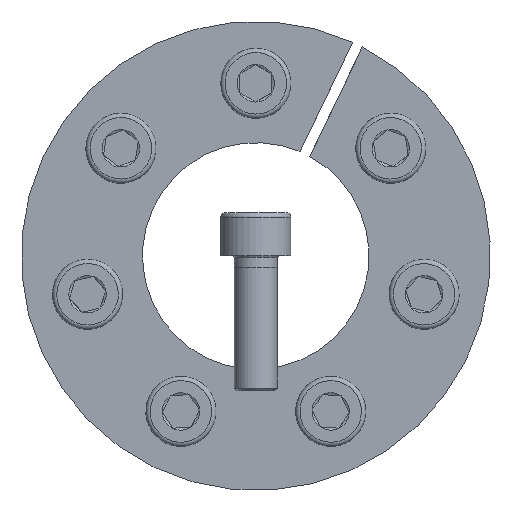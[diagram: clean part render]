
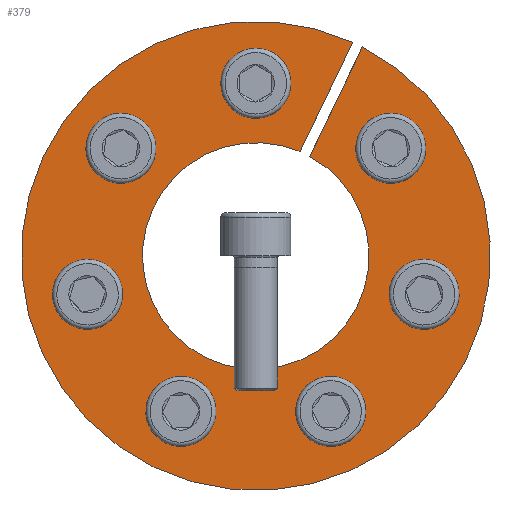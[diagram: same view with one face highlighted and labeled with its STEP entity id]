
A CAD part, front view. The second image highlights one B-rep face of the part: STEP entity #379.
In plain terms, the highlighted planar face has unit normal (0, -1, 0).
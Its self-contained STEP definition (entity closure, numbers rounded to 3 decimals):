
#379 = ADVANCED_FACE( '', ( #600, #601, #602, #603, #604, #605, #606, #607 ), #608, .F. );
#600 = FACE_OUTER_BOUND( '', #754, .T. );
#601 = FACE_BOUND( '', #755, .T. );
#602 = FACE_BOUND( '', #756, .T. );
#603 = FACE_BOUND( '', #757, .T. );
#604 = FACE_BOUND( '', #758, .T. );
#605 = FACE_BOUND( '', #759, .T. );
#606 = FACE_BOUND( '', #760, .T. );
#607 = FACE_BOUND( '', #761, .T. );
#608 = PLANE( '', #762 );
#754 = EDGE_LOOP( '', ( #985, #986, #987, #988 ) );
#755 = EDGE_LOOP( '', ( #989 ) );
#756 = EDGE_LOOP( '', ( #990 ) );
#757 = EDGE_LOOP( '', ( #991 ) );
#758 = EDGE_LOOP( '', ( #992 ) );
#759 = EDGE_LOOP( '', ( #993 ) );
#760 = EDGE_LOOP( '', ( #994 ) );
#761 = EDGE_LOOP( '', ( #995 ) );
#762 = AXIS2_PLACEMENT_3D( '', #996, #997, #998 );
#985 = ORIENTED_EDGE( '', *, *, #1257, .T. );
#986 = ORIENTED_EDGE( '', *, *, #1232, .T. );
#987 = ORIENTED_EDGE( '', *, *, #1246, .T. );
#988 = ORIENTED_EDGE( '', *, *, #1270, .F. );
#989 = ORIENTED_EDGE( '', *, *, #1272, .F. );
#990 = ORIENTED_EDGE( '', *, *, #1273, .F. );
#991 = ORIENTED_EDGE( '', *, *, #1274, .F. );
#992 = ORIENTED_EDGE( '', *, *, #1275, .F. );
#993 = ORIENTED_EDGE( '', *, *, #1276, .F. );
#994 = ORIENTED_EDGE( '', *, *, #1277, .F. );
#995 = ORIENTED_EDGE( '', *, *, #1278, .F. );
#996 = CARTESIAN_POINT( '', ( 0., 0., 43.5 ) );
#997 = DIRECTION( '', ( 0., 1., 0. ) );
#998 = DIRECTION( '', ( 1., 0., 0. ) );
#1232 = EDGE_CURVE( '', #1351, #1355, #1357, .T. );
#1246 = EDGE_CURVE( '', #1355, #1381, #1383, .T. );
#1257 = EDGE_CURVE( '', #1402, #1351, #1403, .T. );
#1270 = EDGE_CURVE( '', #1402, #1381, #1426, .T. );
#1272 = EDGE_CURVE( '', #1428, #1428, #1429, .T. );
#1273 = EDGE_CURVE( '', #1430, #1430, #1431, .T. );
#1274 = EDGE_CURVE( '', #1432, #1432, #1433, .T. );
#1275 = EDGE_CURVE( '', #1434, #1434, #1435, .T. );
#1276 = EDGE_CURVE( '', #1436, #1436, #1437, .T. );
#1277 = EDGE_CURVE( '', #1438, #1438, #1439, .T. );
#1278 = EDGE_CURVE( '', #1440, #1440, #1441, .T. );
#1351 = VERTEX_POINT( '', #1457 );
#1355 = VERTEX_POINT( '', #1462 );
#1357 = CIRCLE( '', #1465, 43.5 );
#1381 = VERTEX_POINT( '', #1497 );
#1383 = LINE( '', #1500, #1501 );
#1402 = VERTEX_POINT( '', #1524 );
#1403 = LINE( '', #1525, #1526 );
#1426 = CIRCLE( '', #1554, 21. );
#1428 = VERTEX_POINT( '', #1556 );
#1429 = CIRCLE( '', #1557, 4.5 );
#1430 = VERTEX_POINT( '', #1558 );
#1431 = CIRCLE( '', #1559, 4.5 );
#1432 = VERTEX_POINT( '', #1560 );
#1433 = CIRCLE( '', #1561, 4.5 );
#1434 = VERTEX_POINT( '', #1562 );
#1435 = CIRCLE( '', #1563, 4.5 );
#1436 = VERTEX_POINT( '', #1564 );
#1437 = CIRCLE( '', #1565, 4.5 );
#1438 = VERTEX_POINT( '', #1566 );
#1439 = CIRCLE( '', #1567, 4.5 );
#1440 = VERTEX_POINT( '', #1568 );
#1441 = CIRCLE( '', #1569, 4.5 );
#1457 = CARTESIAN_POINT( '', ( 17.968, 0., 39.616 ) );
#1462 = CARTESIAN_POINT( '', ( 19.77, 0., 38.748 ) );
#1465 = AXIS2_PLACEMENT_3D( '', #1589, #1590, #1591 );
#1497 = CARTESIAN_POINT( '', ( 10.002, 0., 18.465 ) );
#1500 = CARTESIAN_POINT( '', ( 19.775, 0., 38.758 ) );
#1501 = VECTOR( '', #1613, 1000. );
#1524 = CARTESIAN_POINT( '', ( 8.2, 0., 19.333 ) );
#1525 = CARTESIAN_POINT( '', ( 8.2, 0., 19.333 ) );
#1526 = VECTOR( '', #1639, 1000. );
#1554 = AXIS2_PLACEMENT_3D( '', #1666, #1667, #1668 );
#1556 = CARTESIAN_POINT( '', ( 4.5, 0., 32. ) );
#1557 = AXIS2_PLACEMENT_3D( '', #1672, #1673, #1674 );
#1558 = CARTESIAN_POINT( '', ( 27.824, 0., 16.433 ) );
#1559 = AXIS2_PLACEMENT_3D( '', #1675, #1676, #1677 );
#1560 = CARTESIAN_POINT( '', ( 30.196, 0., -11.508 ) );
#1561 = AXIS2_PLACEMENT_3D( '', #1678, #1679, #1680 );
#1562 = CARTESIAN_POINT( '', ( 9.83, 0., -30.783 ) );
#1563 = AXIS2_PLACEMENT_3D( '', #1681, #1682, #1683 );
#1564 = CARTESIAN_POINT( '', ( -17.939, 0., -26.879 ) );
#1565 = AXIS2_PLACEMENT_3D( '', #1684, #1685, #1686 );
#1566 = CARTESIAN_POINT( '', ( -32.199, 0., -2.733 ) );
#1567 = AXIS2_PLACEMENT_3D( '', #1687, #1688, #1689 );
#1568 = CARTESIAN_POINT( '', ( -22.213, 0., 23.47 ) );
#1569 = AXIS2_PLACEMENT_3D( '', #1690, #1691, #1692 );
#1589 = CARTESIAN_POINT( '', ( 0., 0., 0. ) );
#1590 = DIRECTION( '', ( 0., -1., 0. ) );
#1591 = DIRECTION( '', ( 0., 0., -1. ) );
#1613 = DIRECTION( '', ( -0.434, 0., -0.901 ) );
#1639 = DIRECTION( '', ( 0.434, 0., 0.901 ) );
#1666 = CARTESIAN_POINT( '', ( 0., 0., 0. ) );
#1667 = DIRECTION( '', ( 0., -1., 0. ) );
#1668 = DIRECTION( '', ( 0., 0., -1. ) );
#1672 = CARTESIAN_POINT( '', ( 0., 0., 32. ) );
#1673 = DIRECTION( '', ( 0., -1., 0. ) );
#1674 = DIRECTION( '', ( 1., 0., 0. ) );
#1675 = CARTESIAN_POINT( '', ( 25.019, 0., 19.952 ) );
#1676 = DIRECTION( '', ( 0., -1., 0. ) );
#1677 = DIRECTION( '', ( 0.623, 0., -0.782 ) );
#1678 = CARTESIAN_POINT( '', ( 31.198, 0., -7.121 ) );
#1679 = DIRECTION( '', ( 0., -1., 0. ) );
#1680 = DIRECTION( '', ( -0.223, 0., -0.975 ) );
#1681 = CARTESIAN_POINT( '', ( 13.884, 0., -28.831 ) );
#1682 = DIRECTION( '', ( 0., -1., 0. ) );
#1683 = DIRECTION( '', ( -0.901, 0., -0.434 ) );
#1684 = CARTESIAN_POINT( '', ( -13.884, 0., -28.831 ) );
#1685 = DIRECTION( '', ( 0., -1., 0. ) );
#1686 = DIRECTION( '', ( -0.901, 0., 0.434 ) );
#1687 = CARTESIAN_POINT( '', ( -31.198, 0., -7.121 ) );
#1688 = DIRECTION( '', ( 0., -1., 0. ) );
#1689 = DIRECTION( '', ( -0.223, 0., 0.975 ) );
#1690 = CARTESIAN_POINT( '', ( -25.019, 0., 19.952 ) );
#1691 = DIRECTION( '', ( 0., -1., 0. ) );
#1692 = DIRECTION( '', ( 0.623, 0., 0.782 ) );
